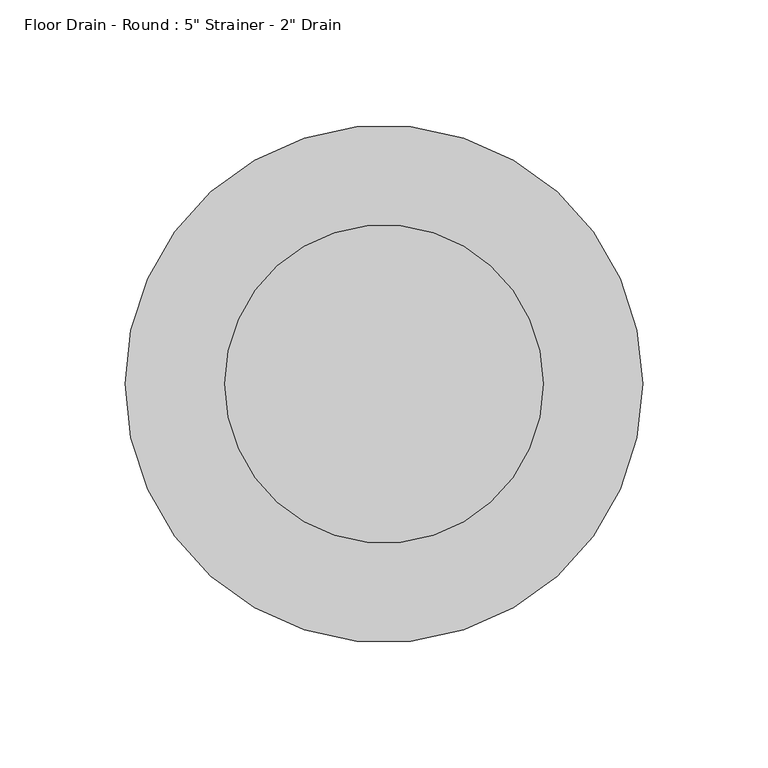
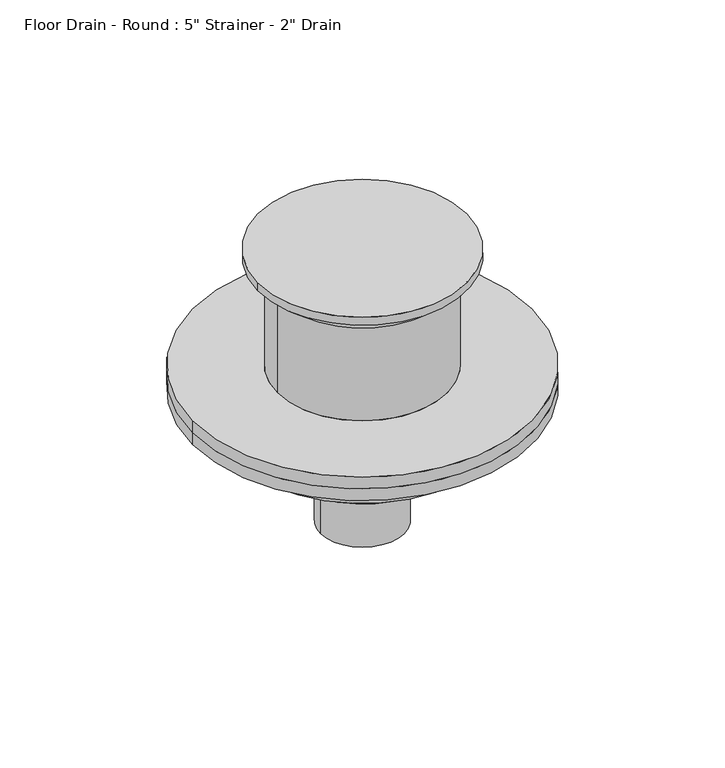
"""IFC4 building model written with IfcOpenShell, lengths in millimetres: flow terminal geometry."""

from ifc_helpers import new_model, si_unit, frame, origin, place, context, project, spatial, polyline, circle_curve, source, transform, mapped, element, save
from ifc_brep_helpers import plane_surface, cylinder_surface, revolved_surface, advanced_brep


def flow_terminal_cb594bdd(model_context):
    return source(origin(), model_context, "Body", "AdvancedBrep", [
        advanced_brep(
        [(103.1875, 0.0, -74.93), (-103.1875, 0.0, -74.93), (-51.59375, 0.0, -74.93), (51.59375, 0.0, -74.93), (103.1875, 0.0, -82.55), (-103.1875, 0.0, -82.55), (51.59375, 0.0, -15.24), (-51.59375, 0.0, -15.24), (63.5, 0.0, -5.08), (-63.5, 0.0, -5.08), (63.5, 0.0, 0.0), (-63.5, 0.0, 0.0)],
        [
            (0, 1, circle_curve(frame((0.0, 0.0, -74.93), z_axis=(0.0, 0.0, 1.0), x_axis=(-1.0, 0.0, 0.0)), 103.1875)),
            (1, 0, circle_curve(frame((0.0, 0.0, -74.93), z_axis=(0.0, 0.0, 1.0), x_axis=(-1.0, 0.0, 0.0)), 103.1875)),
            (2, 3, circle_curve(frame((0.0, 0.0, -74.93), z_axis=(0.0, 0.0, -1.0), x_axis=(-1.0, 0.0, 0.0)), 51.59375)),
            (3, 2, circle_curve(frame((0.0, 0.0, -74.93), z_axis=(0.0, 0.0, -1.0), x_axis=(-1.0, 0.0, 0.0)), 51.59375)),
            (4, 5, circle_curve(frame((0.0, 0.0, -82.55), z_axis=(0.0, 0.0, -1.0), x_axis=(-1.0, 0.0, 0.0)), 103.1875)),
            (5, 4, circle_curve(frame((0.0, 0.0, -82.55), z_axis=(0.0, 0.0, -1.0), x_axis=(-1.0, 0.0, 0.0)), 103.1875)),
            (1, 5),
            (4, 0),
            (6, 7, circle_curve(frame((0.0, 0.0, -15.24), z_axis=(0.0, 0.0, -1.0), x_axis=(-1.0, 0.0, 0.0)), 51.59375)),
            (7, 2),
            (3, 6),
            (7, 6, circle_curve(frame((0.0, 0.0, -15.24), z_axis=(0.0, 0.0, -1.0), x_axis=(-1.0, 0.0, 0.0)), 51.59375)),
            (6, 8),
            (8, 9, circle_curve(frame((0.0, 0.0, -5.08), z_axis=(0.0, 0.0, -1.0), x_axis=(-1.0, 0.0, 0.0)), 63.5)),
            (9, 7),
            (9, 8, circle_curve(frame((0.0, 0.0, -5.08), z_axis=(0.0, 0.0, -1.0), x_axis=(-1.0, 0.0, 0.0)), 63.5)),
            (10, 11, circle_curve(frame((0.0, 0.0, 0.0), z_axis=(0.0, 0.0, 1.0), x_axis=(-1.0, 0.0, 0.0)), 63.5)),
            (11, 10, circle_curve(frame((0.0, 0.0, 0.0), z_axis=(0.0, 0.0, 1.0), x_axis=(-1.0, 0.0, 0.0)), 63.5)),
            (11, 9),
            (8, 10),
        ],
        [
            plane_surface(frame((-103.1875, 0.0, -74.93), z_axis=(0.0, 0.0, 1.0), x_axis=(0.0, 1.0, 0.0))),
            plane_surface(frame((-103.1875, 0.0, -82.55), z_axis=(0.0, 0.0, -1.0), x_axis=(0.0, -1.0, 0.0))),
            cylinder_surface(frame((0.0, 0.0, -82.55), z_axis=(0.0, 0.0, 1.0), x_axis=(-1.0, 0.0, 0.0)), 103.1875),
            cylinder_surface(frame((0.0, 0.0, -74.93), z_axis=(0.0, 0.0, 1.0), x_axis=(-1.0, 0.0, 0.0)), 51.59375),
            revolved_surface(polyline([(-63.5, 0.0, -5.08), (-51.59375, 0.0, -15.24)]), (0.0, 0.0, 44.45), (0.0, 0.0, -1.0)),
            plane_surface(frame((-63.5, 0.0, 0.0), z_axis=(0.0, 0.0, 1.0), x_axis=(0.0, 1.0, 0.0))),
            cylinder_surface(frame((0.0, 0.0, -5.08), z_axis=(0.0, 0.0, 1.0), x_axis=(-1.0, 0.0, 0.0)), 63.5),
        ],
        [
            (0, [[1, 2], [3, 4]]),
            (1, [[5, 6]]),
            (2, [[7, -5, 8, -2]]),
            (2, [[-8, -6, -7, -1]]),
            (3, [[9, 10, -4, 11]]),
            (3, [[-3, -10, 12, -11]]),
            (4, [[-9, 13, 14, 15]]),
            (4, [[16, -13, -12, -15]]),
            (5, [[17, 18]]),
            (6, [[19, -14, 20, -18]]),
            (6, [[-20, -16, -19, -17]]),
        ],
    ),
        advanced_brep(
        [(25.4, 0.0, -174.625), (-25.4, 0.0, -174.625), (25.4, 0.0, -128.5875), (-25.4, 0.0, -128.5875), (51.3291667, 0.0, -128.5875), (-51.3291667, 0.0, -128.5875), (51.3291667, 0.0, -110.1725), (-51.3291667, 0.0, -110.1725), (77.2583333, 0.0, -110.1725), (-77.2583333, 0.0, -110.1725), (77.2583333, 0.0, -90.17), (-77.2583333, 0.0, -90.17), (103.1875, 0.0, -82.55), (-103.1875, 0.0, -82.55), (103.1875, 0.0, -90.17), (-103.1875, 0.0, -90.17)],
        [
            (0, 1, circle_curve(frame((0.0, 0.0, -174.625), z_axis=(0.0, 0.0, -1.0), x_axis=(-1.0, 0.0, 0.0)), 25.4)),
            (1, 0, circle_curve(frame((0.0, 0.0, -174.625), z_axis=(0.0, 0.0, -1.0), x_axis=(-1.0, 0.0, 0.0)), 25.4)),
            (0, 2),
            (2, 3, circle_curve(frame((0.0, 0.0, -128.5875), z_axis=(0.0, 0.0, -1.0), x_axis=(-1.0, 0.0, 0.0)), 25.4)),
            (3, 1),
            (3, 2, circle_curve(frame((0.0, 0.0, -128.5875), z_axis=(0.0, 0.0, -1.0), x_axis=(-1.0, 0.0, 0.0)), 25.4)),
            (4, 5, circle_curve(frame((0.0, 0.0, -128.5875), z_axis=(0.0, 0.0, -1.0), x_axis=(-1.0, 0.0, 0.0)), 51.3291667)),
            (5, 4, circle_curve(frame((0.0, 0.0, -128.5875), z_axis=(0.0, 0.0, -1.0), x_axis=(-1.0, 0.0, 0.0)), 51.3291667)),
            (4, 6),
            (6, 7, circle_curve(frame((0.0, 0.0, -110.1725), z_axis=(0.0, 0.0, -1.0), x_axis=(-1.0, 0.0, 0.0)), 51.3291667)),
            (7, 5),
            (7, 6, circle_curve(frame((0.0, 0.0, -110.1725), z_axis=(0.0, 0.0, -1.0), x_axis=(-1.0, 0.0, 0.0)), 51.3291667)),
            (8, 9, circle_curve(frame((0.0, 0.0, -110.1725), z_axis=(0.0, 0.0, -1.0), x_axis=(-1.0, 0.0, 0.0)), 77.2583333)),
            (9, 8, circle_curve(frame((0.0, 0.0, -110.1725), z_axis=(0.0, 0.0, -1.0), x_axis=(-1.0, 0.0, 0.0)), 77.2583333)),
            (8, 10),
            (10, 11, circle_curve(frame((0.0, 0.0, -90.17), z_axis=(0.0, 0.0, -1.0), x_axis=(-1.0, 0.0, 0.0)), 77.2583333)),
            (11, 9),
            (11, 10, circle_curve(frame((0.0, 0.0, -90.17), z_axis=(0.0, 0.0, -1.0), x_axis=(-1.0, 0.0, 0.0)), 77.2583333)),
            (12, 13, circle_curve(frame((0.0, 0.0, -82.55), z_axis=(0.0, 0.0, 1.0), x_axis=(-1.0, 0.0, 0.0)), 103.1875)),
            (13, 12, circle_curve(frame((0.0, 0.0, -82.55), z_axis=(0.0, 0.0, 1.0), x_axis=(-1.0, 0.0, 0.0)), 103.1875)),
            (14, 15, circle_curve(frame((0.0, 0.0, -90.17), z_axis=(0.0, 0.0, -1.0), x_axis=(-1.0, 0.0, 0.0)), 103.1875)),
            (15, 14, circle_curve(frame((0.0, 0.0, -90.17), z_axis=(0.0, 0.0, -1.0), x_axis=(-1.0, 0.0, 0.0)), 103.1875)),
            (13, 15),
            (14, 12),
        ],
        [
            plane_surface(frame((-25.4, 0.0, -174.625), z_axis=(0.0, 0.0, -1.0), x_axis=(0.0, -1.0, 0.0))),
            cylinder_surface(frame((0.0, 0.0, -174.625), z_axis=(0.0, 0.0, 1.0), x_axis=(-1.0, 0.0, 0.0)), 25.4),
            plane_surface(frame((-51.3291667, 0.0, -128.5875), z_axis=(0.0, 0.0, -1.0), x_axis=(0.0, -1.0, 0.0))),
            cylinder_surface(frame((0.0, 0.0, -128.5875), z_axis=(0.0, 0.0, 1.0), x_axis=(-1.0, 0.0, 0.0)), 51.3291667),
            plane_surface(frame((-77.2583333, 0.0, -110.1725), z_axis=(0.0, 0.0, -1.0), x_axis=(0.0, -1.0, 0.0))),
            cylinder_surface(frame((0.0, 0.0, -110.1725), z_axis=(0.0, 0.0, 1.0), x_axis=(-1.0, 0.0, 0.0)), 77.2583333),
            plane_surface(frame((-103.1875, 0.0, -82.55), z_axis=(0.0, 0.0, 1.0), x_axis=(0.0, 1.0, 0.0))),
            plane_surface(frame((-103.1875, 0.0, -90.17), z_axis=(0.0, 0.0, -1.0), x_axis=(0.0, -1.0, 0.0))),
            cylinder_surface(frame((0.0, 0.0, -90.17), z_axis=(0.0, 0.0, 1.0), x_axis=(-1.0, 0.0, 0.0)), 103.1875),
        ],
        [
            (0, [[1, 2]]),
            (1, [[3, 4, 5, -1]]),
            (1, [[-5, 6, -3, -2]]),
            (2, [[7, 8], [-6, -4]]),
            (3, [[9, 10, 11, -7]]),
            (3, [[-11, 12, -9, -8]]),
            (4, [[13, 14], [-12, -10]]),
            (5, [[15, 16, 17, -13]]),
            (5, [[-17, 18, -15, -14]]),
            (6, [[19, 20]]),
            (7, [[21, 22], [-18, -16]]),
            (8, [[23, -21, 24, -20]]),
            (8, [[-24, -22, -23, -19]]),
        ],
    ),
    ])


if __name__ == "__main__":
    model = new_model("IFC4")
    model_context = context("Model", 3, world=origin())
    ifc_project = project(units=[si_unit("LENGTHUNIT", "METRE", prefix="MILLI")], contexts=[model_context])
    site = spatial("IfcSite", under=ifc_project)
    building = spatial("IfcBuilding", under=site)
    placement = place(None, origin())
    flow_terminal_shape = flow_terminal_cb594bdd(model_context)
    element("IfcFlowTerminal", 1, ObjectType="Floor Drain - Round : 5\" Strainer - 2\" Drain", at=placement, inside=building, context=model_context, shape_type="MappedRepresentation", body=[
        mapped(flow_terminal_shape, transform((0.0, 0.0, 0.0), x_axis=(1.0, 0.0, 0.0), y_axis=(0.0, 1.0, 0.0), z_axis=(0.0, 0.0, 1.0))),
    ])
    save(model, "model.ifc")
